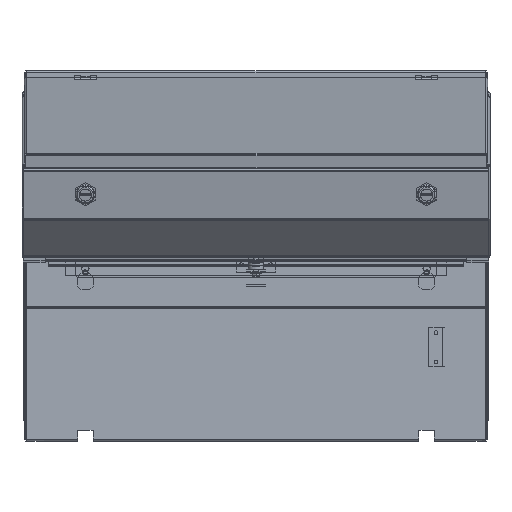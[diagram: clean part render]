
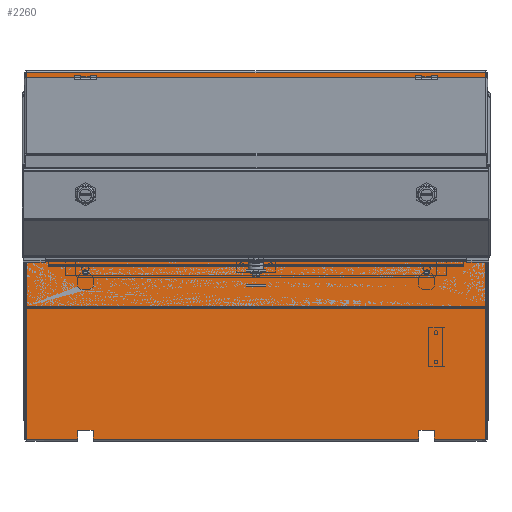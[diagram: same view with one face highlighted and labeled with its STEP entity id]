
A CAD part, front view. The second image highlights one B-rep face of the part: STEP entity #2260.
In plain terms, the highlighted planar face has unit normal (0, -1, 0).
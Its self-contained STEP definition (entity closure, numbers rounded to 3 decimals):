
#2260 = ADVANCED_FACE( '', ( #3680 ), #3681, .T. );
#3680 = FACE_OUTER_BOUND( '', #6080, .T. );
#3681 = PLANE( '', #6081 );
#6080 = EDGE_LOOP( '', ( #11082, #11083, #11084, #11085, #11086, #11087, #11088, #11089, #11090, #11091, #11092, #11093 ) );
#6081 = AXIS2_PLACEMENT_3D( '', #11094, #11095, #11096 );
#11082 = ORIENTED_EDGE( '', *, *, #13188, .T. );
#11083 = ORIENTED_EDGE( '', *, *, #13141, .T. );
#11084 = ORIENTED_EDGE( '', *, *, #13180, .T. );
#11085 = ORIENTED_EDGE( '', *, *, #13089, .F. );
#11086 = ORIENTED_EDGE( '', *, *, #13165, .T. );
#11087 = ORIENTED_EDGE( '', *, *, #13189, .T. );
#11088 = ORIENTED_EDGE( '', *, *, #13190, .T. );
#11089 = ORIENTED_EDGE( '', *, *, #13191, .T. );
#11090 = ORIENTED_EDGE( '', *, *, #13192, .T. );
#11091 = ORIENTED_EDGE( '', *, *, #13193, .T. );
#11092 = ORIENTED_EDGE( '', *, *, #13064, .T. );
#11093 = ORIENTED_EDGE( '', *, *, #13194, .T. );
#11094 = CARTESIAN_POINT( '', ( -301.625, 0., -241.3 ) );
#11095 = DIRECTION( '', ( 0., -1., 0. ) );
#11096 = DIRECTION( '', ( 0., 0., -1. ) );
#13064 = EDGE_CURVE( '', #15583, #15581, #15584, .T. );
#13089 = EDGE_CURVE( '', #15626, #15628, #15629, .T. );
#13141 = EDGE_CURVE( '', #15704, #15710, #15712, .T. );
#13165 = EDGE_CURVE( '', #15626, #15596, #15750, .T. );
#13180 = EDGE_CURVE( '', #15710, #15628, #15771, .T. );
#13188 = EDGE_CURVE( '', #15784, #15704, #15785, .T. );
#13189 = EDGE_CURVE( '', #15596, #15786, #15787, .T. );
#13190 = EDGE_CURVE( '', #15786, #15788, #15789, .T. );
#13191 = EDGE_CURVE( '', #15788, #15790, #15791, .T. );
#13192 = EDGE_CURVE( '', #15790, #15792, #15793, .T. );
#13193 = EDGE_CURVE( '', #15792, #15583, #15794, .T. );
#13194 = EDGE_CURVE( '', #15581, #15784, #15795, .T. );
#15581 = VERTEX_POINT( '', #19433 );
#15583 = VERTEX_POINT( '', #19436 );
#15584 = LINE( '', #19437, #19438 );
#15596 = VERTEX_POINT( '', #19459 );
#15626 = VERTEX_POINT( '', #19549 );
#15628 = VERTEX_POINT( '', #19551 );
#15629 = LINE( '', #19552, #19553 );
#15704 = VERTEX_POINT( '', #19729 );
#15710 = VERTEX_POINT( '', #19752 );
#15712 = LINE( '', #19754, #19755 );
#15750 = LINE( '', #19858, #19859 );
#15771 = LINE( '', #19924, #19925 );
#15784 = VERTEX_POINT( '', #19961 );
#15785 = LINE( '', #19962, #19963 );
#15786 = VERTEX_POINT( '', #19964 );
#15787 = LINE( '', #19965, #19966 );
#15788 = VERTEX_POINT( '', #19967 );
#15789 = LINE( '', #19968, #19969 );
#15790 = VERTEX_POINT( '', #19970 );
#15791 = LINE( '', #19971, #19972 );
#15792 = VERTEX_POINT( '', #19973 );
#15793 = LINE( '', #19974, #19975 );
#15794 = LINE( '', #19976, #19977 );
#15795 = LINE( '', #19978, #19979 );
#19433 = CARTESIAN_POINT( '', ( 212.217, 0., -227.013 ) );
#19436 = CARTESIAN_POINT( '', ( 212.217, 0., -238.557 ) );
#19437 = CARTESIAN_POINT( '', ( 212.217, 0., -241.3 ) );
#19438 = VECTOR( '', #22287, 1000. );
#19459 = CARTESIAN_POINT( '', ( -298.882, 0., -238.557 ) );
#19549 = CARTESIAN_POINT( '', ( -298.882, 0., 238.557 ) );
#19551 = CARTESIAN_POINT( '', ( 298.882, 0., 238.557 ) );
#19552 = CARTESIAN_POINT( '', ( -298.882, 0., 238.557 ) );
#19553 = VECTOR( '', #22316, 1000. );
#19729 = CARTESIAN_POINT( '', ( 232.283, 0., -238.557 ) );
#19752 = CARTESIAN_POINT( '', ( 298.882, 0., -238.557 ) );
#19754 = CARTESIAN_POINT( '', ( -298.882, 0., -238.557 ) );
#19755 = VECTOR( '', #22383, 1000. );
#19858 = CARTESIAN_POINT( '', ( -298.882, 0., 238.557 ) );
#19859 = VECTOR( '', #22417, 1000. );
#19924 = CARTESIAN_POINT( '', ( 298.882, 0., -238.557 ) );
#19925 = VECTOR( '', #22435, 1000. );
#19961 = CARTESIAN_POINT( '', ( 232.283, 0., -227.013 ) );
#19962 = CARTESIAN_POINT( '', ( 232.283, 0., -241.3 ) );
#19963 = VECTOR( '', #22449, 1000. );
#19964 = CARTESIAN_POINT( '', ( -232.283, 0., -238.557 ) );
#19965 = CARTESIAN_POINT( '', ( -298.882, 0., -238.557 ) );
#19966 = VECTOR( '', #22450, 1000. );
#19967 = CARTESIAN_POINT( '', ( -232.283, 0., -227.013 ) );
#19968 = CARTESIAN_POINT( '', ( -232.283, 0., -241.3 ) );
#19969 = VECTOR( '', #22451, 1000. );
#19970 = CARTESIAN_POINT( '', ( -212.217, 0., -227.013 ) );
#19971 = CARTESIAN_POINT( '', ( -301.625, 0., -227.013 ) );
#19972 = VECTOR( '', #22452, 1000. );
#19973 = CARTESIAN_POINT( '', ( -212.217, 0., -238.557 ) );
#19974 = CARTESIAN_POINT( '', ( -212.217, 0., -241.3 ) );
#19975 = VECTOR( '', #22453, 1000. );
#19976 = CARTESIAN_POINT( '', ( -298.882, 0., -238.557 ) );
#19977 = VECTOR( '', #22454, 1000. );
#19978 = CARTESIAN_POINT( '', ( -301.625, 0., -227.013 ) );
#19979 = VECTOR( '', #22455, 1000. );
#22287 = DIRECTION( '', ( 0., 0., 1. ) );
#22316 = DIRECTION( '', ( 1., 0., 0. ) );
#22383 = DIRECTION( '', ( 1., 0., 0. ) );
#22417 = DIRECTION( '', ( 0., 0., -1. ) );
#22435 = DIRECTION( '', ( 0., 0., 1. ) );
#22449 = DIRECTION( '', ( 0., 0., -1. ) );
#22450 = DIRECTION( '', ( 1., 0., 0. ) );
#22451 = DIRECTION( '', ( 0., 0., 1. ) );
#22452 = DIRECTION( '', ( 1., 0., 0. ) );
#22453 = DIRECTION( '', ( 0., 0., -1. ) );
#22454 = DIRECTION( '', ( 1., 0., 0. ) );
#22455 = DIRECTION( '', ( 1., 0., 0. ) );
